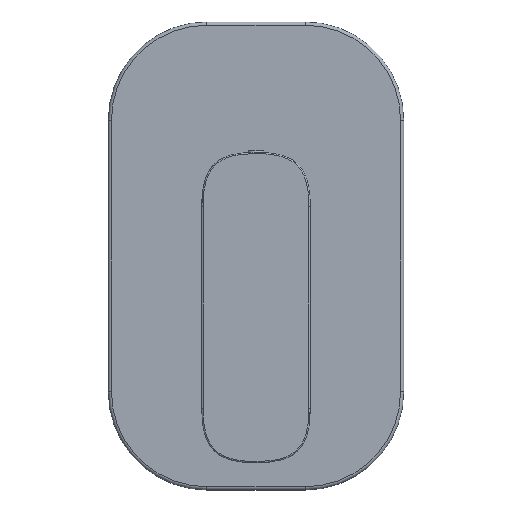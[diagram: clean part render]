
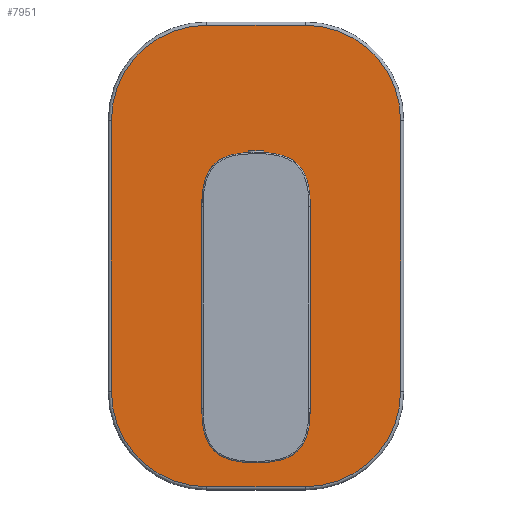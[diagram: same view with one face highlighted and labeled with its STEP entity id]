
A CAD part, top view. The second image highlights one B-rep face of the part: STEP entity #7951.
In plain terms, the highlighted planar face has unit normal (0, 0, 1).
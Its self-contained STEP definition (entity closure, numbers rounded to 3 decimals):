
#2339=CARTESIAN_POINT('',(0.,0.,42.));
#2340=DIRECTION('',(0.,0.,1.));
#2341=DIRECTION('',(-1.,0.,0.));
#2342=AXIS2_PLACEMENT_3D('',#2339,#2340,#2341);
#2349=CARTESIAN_POINT('',(20.,35.,42.));
#2350=DIRECTION('',(0.,0.,1.));
#2351=DIRECTION('',(1.,0.,0.));
#2352=AXIS2_PLACEMENT_3D('',#2349,#2350,#2351);
#2354=DIRECTION('',(0.,1.,0.));
#2355=VECTOR('',#2354,110.);
#2356=CARTESIAN_POINT('',(58.7,-75.,42.));
#2357=LINE('',#2356,#2355);
#2358=CARTESIAN_POINT('',(20.,-75.,42.));
#2359=DIRECTION('',(0.,0.,1.));
#2360=DIRECTION('',(0.,-1.,0.));
#2361=AXIS2_PLACEMENT_3D('',#2358,#2359,#2360);
#2363=DIRECTION('',(1.,0.,0.));
#2364=VECTOR('',#2363,40.);
#2365=CARTESIAN_POINT('',(-20.,-113.7,42.));
#2366=LINE('',#2365,#2364);
#2367=CARTESIAN_POINT('',(-20.,-75.,42.));
#2368=DIRECTION('',(0.,0.,1.));
#2369=DIRECTION('',(-1.,0.,0.));
#2370=AXIS2_PLACEMENT_3D('',#2367,#2368,#2369);
#2372=DIRECTION('',(0.,-1.,0.));
#2373=VECTOR('',#2372,110.);
#2374=CARTESIAN_POINT('',(-58.7,35.,42.));
#2375=LINE('',#2374,#2373);
#2376=CARTESIAN_POINT('',(-20.,35.,42.));
#2377=DIRECTION('',(0.,0.,1.));
#2378=DIRECTION('',(0.,1.,0.));
#2379=AXIS2_PLACEMENT_3D('',#2376,#2377,#2378);
#2381=DIRECTION('',(-1.,0.,0.));
#2382=VECTOR('',#2381,40.);
#2383=CARTESIAN_POINT('',(20.,73.7,42.));
#2384=LINE('',#2383,#2382);
#2529=CARTESIAN_POINT('',(0.,0.,42.));
#2530=DIRECTION('',(0.,0.,1.));
#2531=DIRECTION('',(1.,0.,0.));
#2532=AXIS2_PLACEMENT_3D('',#2529,#2530,#2531);
#4051=CARTESIAN_POINT('',(58.7,35.,42.));
#4052=CARTESIAN_POINT('',(20.,73.7,42.));
#4053=VERTEX_POINT('',#4051);
#4054=VERTEX_POINT('',#4052);
#4059=CARTESIAN_POINT('',(-20.,73.7,42.));
#4060=VERTEX_POINT('',#4059);
#4063=CARTESIAN_POINT('',(-58.7,35.,42.));
#4064=VERTEX_POINT('',#4063);
#4067=CARTESIAN_POINT('',(-58.7,-75.,42.));
#4068=VERTEX_POINT('',#4067);
#4071=CARTESIAN_POINT('',(-20.,-113.7,42.));
#4072=VERTEX_POINT('',#4071);
#4075=CARTESIAN_POINT('',(20.,-113.7,42.));
#4076=VERTEX_POINT('',#4075);
#4079=CARTESIAN_POINT('',(58.7,-75.,42.));
#4080=VERTEX_POINT('',#4079);
#4380=CARTESIAN_POINT('',(-20.35,0.,42.));
#4381=CARTESIAN_POINT('',(20.35,0.,42.));
#4382=VERTEX_POINT('',#4380);
#4383=VERTEX_POINT('',#4381);
#7923=CARTESIAN_POINT('',(0.,-20.,42.));
#7924=DIRECTION('',(0.,0.,1.));
#7925=DIRECTION('',(1.,0.,0.));
#7926=AXIS2_PLACEMENT_3D('',#7923,#7924,#7925);
#7927=PLANE('',#7926);
#7929=ORIENTED_EDGE('',*,*,#7928,.F.);
#7931=ORIENTED_EDGE('',*,*,#7930,.F.);
#7933=ORIENTED_EDGE('',*,*,#7932,.F.);
#7935=ORIENTED_EDGE('',*,*,#7934,.F.);
#7937=ORIENTED_EDGE('',*,*,#7936,.F.);
#7939=ORIENTED_EDGE('',*,*,#7938,.F.);
#7941=ORIENTED_EDGE('',*,*,#7940,.F.);
#7943=ORIENTED_EDGE('',*,*,#7942,.F.);
#7944=EDGE_LOOP('',(#7929,#7931,#7933,#7935,#7937,#7939,#7941,#7943));
#7945=FACE_OUTER_BOUND('',#7944,.F.);
#7946=ORIENTED_EDGE('',*,*,#7913,.T.);
#7948=ORIENTED_EDGE('',*,*,#7947,.T.);
#7949=EDGE_LOOP('',(#7946,#7948));
#7950=FACE_BOUND('',#7949,.F.);
#7951=ADVANCED_FACE('',(#7945,#7950),#7927,.T.);
#2343=CIRCLE('',#2342,20.35);
#2353=CIRCLE('',#2352,38.7);
#2362=CIRCLE('',#2361,38.7);
#2371=CIRCLE('',#2370,38.7);
#2380=CIRCLE('',#2379,38.7);
#2533=CIRCLE('',#2532,20.35);
#7913=EDGE_CURVE('',#4382,#4383,#2343,.T.);
#7928=EDGE_CURVE('',#4053,#4054,#2353,.T.);
#7930=EDGE_CURVE('',#4080,#4053,#2357,.T.);
#7932=EDGE_CURVE('',#4076,#4080,#2362,.T.);
#7934=EDGE_CURVE('',#4072,#4076,#2366,.T.);
#7936=EDGE_CURVE('',#4068,#4072,#2371,.T.);
#7938=EDGE_CURVE('',#4064,#4068,#2375,.T.);
#7940=EDGE_CURVE('',#4060,#4064,#2380,.T.);
#7942=EDGE_CURVE('',#4054,#4060,#2384,.T.);
#7947=EDGE_CURVE('',#4383,#4382,#2533,.T.);
